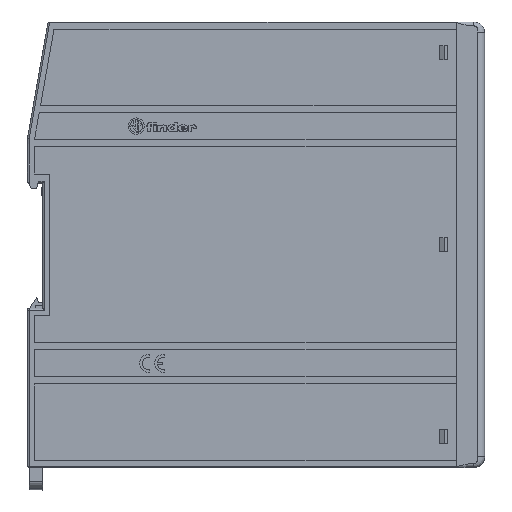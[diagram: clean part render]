
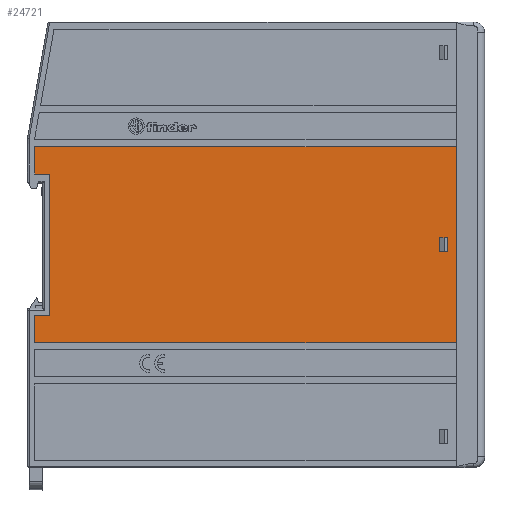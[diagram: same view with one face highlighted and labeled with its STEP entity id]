
A CAD part, top view. The second image highlights one B-rep face of the part: STEP entity #24721.
In plain terms, the highlighted planar face has unit normal (0, 0, 1).
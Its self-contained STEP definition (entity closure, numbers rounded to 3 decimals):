
#481=PLANE('',#26982);
#5395=ORIENTED_EDGE('',*,*,#11018,.T.);
#5396=ORIENTED_EDGE('',*,*,#11019,.T.);
#5397=ORIENTED_EDGE('',*,*,#11020,.T.);
#5398=ORIENTED_EDGE('',*,*,#11021,.T.);
#5399=ORIENTED_EDGE('',*,*,#11022,.F.);
#5400=ORIENTED_EDGE('',*,*,#10817,.T.);
#5401=ORIENTED_EDGE('',*,*,#11023,.F.);
#5402=ORIENTED_EDGE('',*,*,#11024,.T.);
#5403=ORIENTED_EDGE('',*,*,#11025,.F.);
#5404=ORIENTED_EDGE('',*,*,#11026,.T.);
#5405=ORIENTED_EDGE('',*,*,#11027,.F.);
#5406=ORIENTED_EDGE('',*,*,#10821,.T.);
#10817=EDGE_CURVE('',#15013,#15014,#17761,.T.);
#10821=EDGE_CURVE('',#15016,#15015,#17765,.T.);
#11018=EDGE_CURVE('',#15122,#15123,#17929,.T.);
#11019=EDGE_CURVE('',#15123,#15124,#17930,.T.);
#11020=EDGE_CURVE('',#15124,#15125,#17931,.T.);
#11021=EDGE_CURVE('',#15125,#15122,#17932,.T.);
#11022=EDGE_CURVE('',#15013,#15015,#17933,.T.);
#11023=EDGE_CURVE('',#15126,#15014,#17934,.T.);
#11024=EDGE_CURVE('',#15126,#15127,#17935,.T.);
#11025=EDGE_CURVE('',#15128,#15127,#17936,.T.);
#11026=EDGE_CURVE('',#15128,#15129,#17937,.T.);
#11027=EDGE_CURVE('',#15016,#15129,#17938,.T.);
#15013=VERTEX_POINT('',#39968);
#15014=VERTEX_POINT('',#39969);
#15015=VERTEX_POINT('',#39974);
#15016=VERTEX_POINT('',#39976);
#15122=VERTEX_POINT('',#40539);
#15123=VERTEX_POINT('',#40540);
#15124=VERTEX_POINT('',#40542);
#15125=VERTEX_POINT('',#40544);
#15126=VERTEX_POINT('',#40548);
#15127=VERTEX_POINT('',#40550);
#15128=VERTEX_POINT('',#40552);
#15129=VERTEX_POINT('',#40554);
#17761=LINE('',#39967,#20742);
#17765=LINE('',#39975,#20746);
#17929=LINE('',#40538,#20910);
#17930=LINE('',#40541,#20911);
#17931=LINE('',#40543,#20912);
#17932=LINE('',#40545,#20913);
#17933=LINE('',#40546,#20914);
#17934=LINE('',#40547,#20915);
#17935=LINE('',#40549,#20916);
#17936=LINE('',#40551,#20917);
#17937=LINE('',#40553,#20918);
#17938=LINE('',#40555,#20919);
#20742=VECTOR('',#31577,1000.);
#20746=VECTOR('',#31583,1000.);
#20910=VECTOR('',#31997,1000.);
#20911=VECTOR('',#31998,1000.);
#20912=VECTOR('',#31999,1000.);
#20913=VECTOR('',#32000,1000.);
#20914=VECTOR('',#32001,1000.);
#20915=VECTOR('',#32002,1000.);
#20916=VECTOR('',#32003,1000.);
#20917=VECTOR('',#32004,1000.);
#20918=VECTOR('',#32005,1000.);
#20919=VECTOR('',#32006,1000.);
#22645=EDGE_LOOP('',(#5395,#5396,#5397,#5398));
#22646=EDGE_LOOP('',(#5399,#5400,#5401,#5402,#5403,#5404,#5405,#5406));
#23730=FACE_BOUND('',#22645,.T.);
#23731=FACE_BOUND('',#22646,.T.);
#24721=ADVANCED_FACE('',(#23730,#23731),#481,.T.);
#26982=AXIS2_PLACEMENT_3D('',#40537,#31995,#31996);
#31577=DIRECTION('',(-1.,0.,0.));
#31583=DIRECTION('',(1.,0.,0.));
#31995=DIRECTION('',(0.,0.,1.));
#31996=DIRECTION('',(1.,0.,0.));
#31997=DIRECTION('',(0.,-1.,0.));
#31998=DIRECTION('',(-1.,0.,0.));
#31999=DIRECTION('',(0.,1.,0.));
#32000=DIRECTION('',(1.,0.,0.));
#32001=DIRECTION('',(0.,-1.,0.));
#32002=DIRECTION('',(0.,1.,0.));
#32003=DIRECTION('',(1.,0.,0.));
#32004=DIRECTION('',(0.,1.,0.));
#32005=DIRECTION('',(-1.,0.,0.));
#32006=DIRECTION('',(0.,1.,0.));
#39967=CARTESIAN_POINT('',(48.,27.75,-67.5));
#39968=CARTESIAN_POINT('',(71.,27.75,-67.5));
#39969=CARTESIAN_POINT('',(-48.3,27.75,-67.5));
#39974=CARTESIAN_POINT('',(71.,-27.75,-67.5));
#39975=CARTESIAN_POINT('',(-41.5,-27.75,-67.5));
#39976=CARTESIAN_POINT('',(-48.3,-27.75,-67.5));
#40537=CARTESIAN_POINT('',(-50.188,28.787,-67.5));
#40538=CARTESIAN_POINT('',(68.5,28.787,-67.5));
#40539=CARTESIAN_POINT('',(68.5,2.,-67.5));
#40540=CARTESIAN_POINT('',(68.5,-2.,-67.5));
#40541=CARTESIAN_POINT('',(-50.188,-2.,-67.5));
#40542=CARTESIAN_POINT('',(66.3,-2.,-67.5));
#40543=CARTESIAN_POINT('',(66.3,28.787,-67.5));
#40544=CARTESIAN_POINT('',(66.3,2.,-67.5));
#40545=CARTESIAN_POINT('',(-50.188,2.,-67.5));
#40546=CARTESIAN_POINT('',(71.,28.787,-67.5));
#40547=CARTESIAN_POINT('',(-48.3,20.,-67.5));
#40548=CARTESIAN_POINT('',(-48.3,20.,-67.5));
#40549=CARTESIAN_POINT('',(-48.3,20.,-67.5));
#40550=CARTESIAN_POINT('',(-44.,20.,-67.5));
#40551=CARTESIAN_POINT('',(-44.,-20.,-67.5));
#40552=CARTESIAN_POINT('',(-44.,-20.,-67.5));
#40553=CARTESIAN_POINT('',(-44.,-20.,-67.5));
#40554=CARTESIAN_POINT('',(-48.3,-20.,-67.5));
#40555=CARTESIAN_POINT('',(-48.3,-27.75,-67.5));
